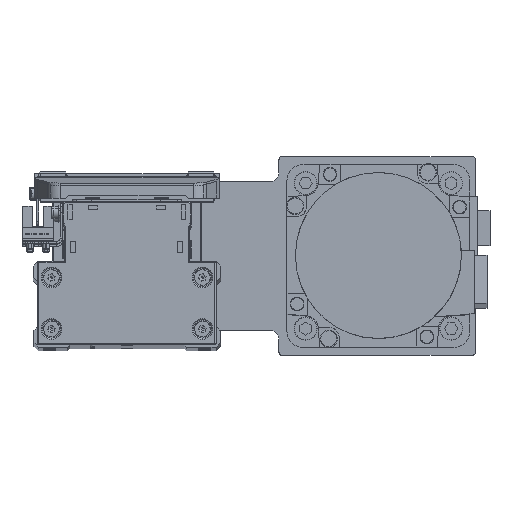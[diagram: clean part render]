
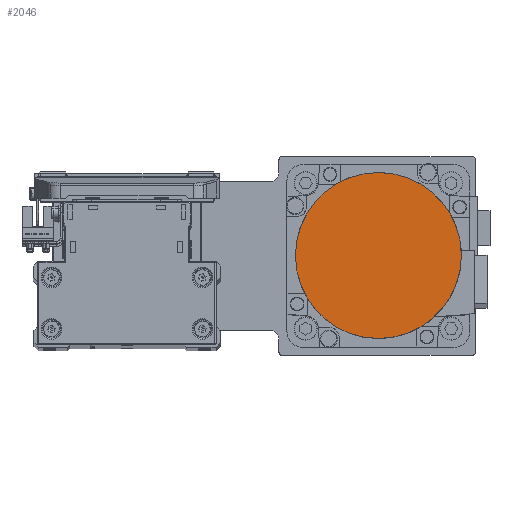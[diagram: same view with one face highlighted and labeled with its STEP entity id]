
A CAD part, top view. The second image highlights one B-rep face of the part: STEP entity #2046.
In plain terms, the highlighted planar face has unit normal (0, 0, 1) as drawn and (0, 0, -1) by its records, which use the part's own axes.
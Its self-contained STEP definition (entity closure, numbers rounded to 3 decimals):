
#2046 = ADVANCED_FACE ( 'NONE', ( #9474 ), #21749, .F. ) ;
#3180 = DIRECTION ( 'NONE',  ( 0., -1., 0. ) ) ;
#6450 = DIRECTION ( 'NONE',  ( 0., 0., 1. ) ) ;
#6937 = CIRCLE ( 'NONE', #12097, 36.3 ) ;
#7448 = DIRECTION ( 'NONE',  ( 0., 0., 1. ) ) ;
#9054 = CARTESIAN_POINT ( 'NONE',  ( 0., -36.3, -122.2 ) ) ;
#9474 = FACE_OUTER_BOUND ( 'NONE', #25103, .T. ) ;
#11578 = EDGE_CURVE ( 'NONE', #20341, #14407, #6937, .T. ) ;
#12097 = AXIS2_PLACEMENT_3D ( 'NONE', #35019, #7448, #19720 ) ;
#14407 = VERTEX_POINT ( 'NONE', #9054 ) ;
#18398 = AXIS2_PLACEMENT_3D ( 'NONE', #18495, #30774, #3180 ) ;
#18495 = CARTESIAN_POINT ( 'NONE',  ( 0., 0., -122.2 ) ) ;
#18727 = DIRECTION ( 'NONE',  ( 1., 0., 0. ) ) ;
#19245 = CARTESIAN_POINT ( 'NONE',  ( 0., 36.3, -122.2 ) ) ;
#19720 = DIRECTION ( 'NONE',  ( 0., 1., 0. ) ) ;
#20341 = VERTEX_POINT ( 'NONE', #19245 ) ;
#21749 = PLANE ( 'NONE',  #36632 ) ;
#21773 = ORIENTED_EDGE ( 'NONE', *, *, #11578, .F. ) ;
#25103 = EDGE_LOOP ( 'NONE', ( #21773, #25677 ) ) ;
#25677 = ORIENTED_EDGE ( 'NONE', *, *, #30826, .F. ) ;
#30774 = DIRECTION ( 'NONE',  ( 0., 0., 1. ) ) ;
#30826 = EDGE_CURVE ( 'NONE', #14407, #20341, #35741, .T. ) ;
#34022 = CARTESIAN_POINT ( 'NONE',  ( 0., 0., -122.2 ) ) ;
#35019 = CARTESIAN_POINT ( 'NONE',  ( 0., 0., -122.2 ) ) ;
#35741 = CIRCLE ( 'NONE', #18398, 36.3 ) ;
#36632 = AXIS2_PLACEMENT_3D ( 'NONE', #34022, #6450, #18727 ) ;
